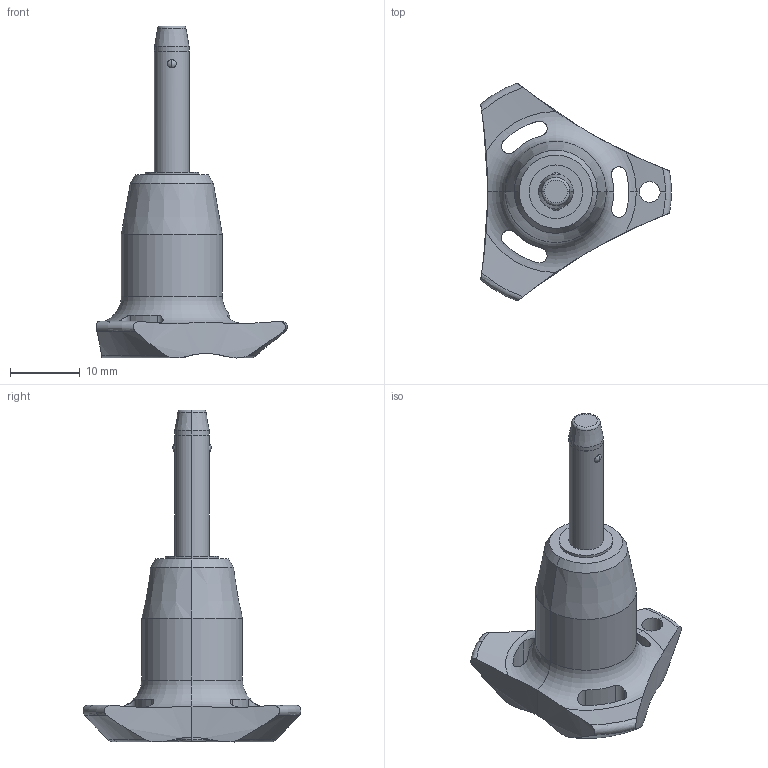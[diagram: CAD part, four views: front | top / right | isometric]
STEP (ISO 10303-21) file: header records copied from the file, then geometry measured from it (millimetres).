
FILE_DESCRIPTION (( 'STEP AP203' ), '1' );
FILE_NAME ('QR1716.M05-015-T.step', '2025-11-13T10:23:35', ( '' ), ( '' ), 'SwSTEP 2.0', 'SolidWorks 2019', '' );
FILE_SCHEMA (( 'CONFIG_CONTROL_DESIGN' ));
Length unit declared in the file: millimetre
Products named in the file (1): QR1716.M05-015-T
Bounding box: 27.4 x 31.31 x 47.7 mm (x, y, z)
Volume: 5162.4 mm3; surface area: 2744 mm2
Topology: 1 solids, 1 shells, 69 faces, 187 edges, 119 vertices
Faces by surface type: cylinder 32, cone 14, torus 12, sphere 6, plane 5
Entity records: 2773 total; most frequent: CARTESIAN_POINT 994, ORIENTED_EDGE 374, DIRECTION 348, EDGE_CURVE 187, AXIS2_PLACEMENT_3D 155, VERTEX_POINT 119, CIRCLE 85, EDGE_LOOP 76
